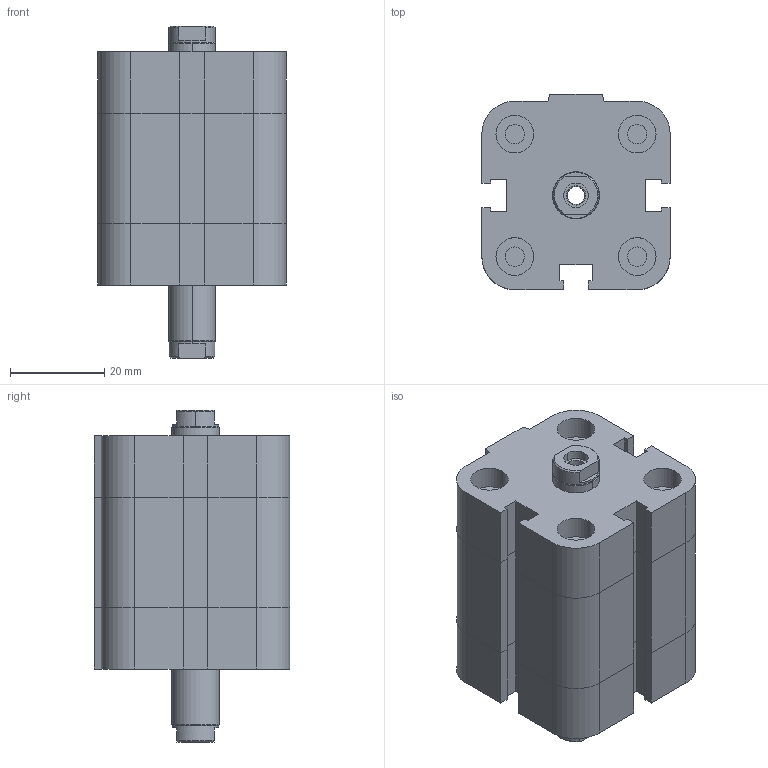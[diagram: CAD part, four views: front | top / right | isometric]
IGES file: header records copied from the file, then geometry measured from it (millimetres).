
Global section: file name: No Iges File Name specified; native system: Autodesk Inventor 2009; preprocessor: AutoDesk Inventor Iges Exporter R2009; author: maffial1; date: 20090420.201155; units: millimetre
Bounding box: 40 x 41.5 x 70.5 mm (x, y, z)
Volume: 70080.5 mm3; surface area: 19730.2 mm2
Topology: 2 solids, 2 shells, 204 faces, 456 edges, 278 vertices
Faces by surface type: plane 114, bspline 44, revolution 20, cylinder 18, cone 8
